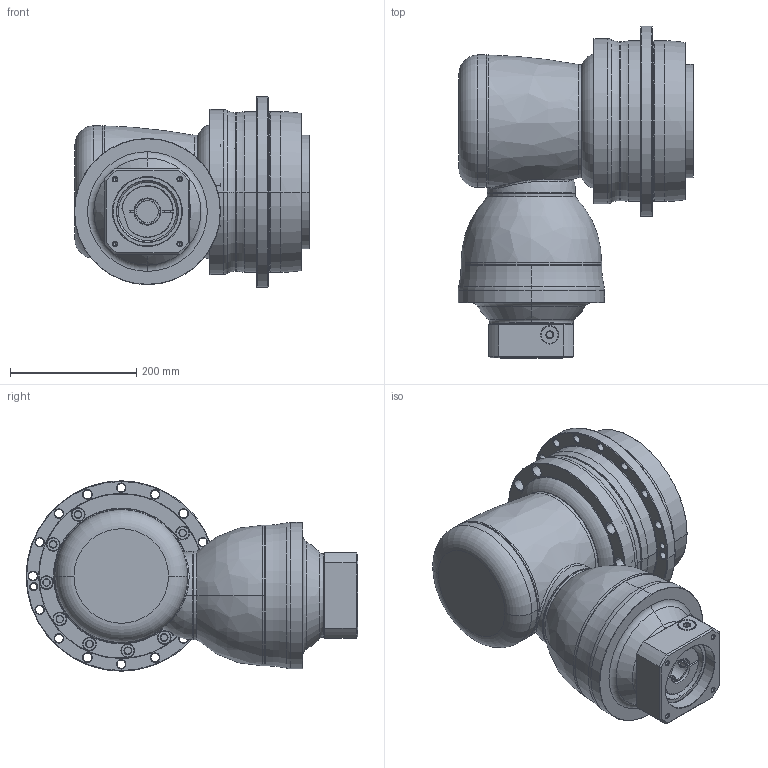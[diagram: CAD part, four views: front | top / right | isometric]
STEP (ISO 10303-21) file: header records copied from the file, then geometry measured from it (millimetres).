
FILE_DESCRIPTION((''),'2;1');
FILE_NAME('AHKB255_3ST_35-P0409800101_ASM','2016-12-01T',('d01943'),(''),'PRO/ENGINEER BY PARAMETRIC TECHNOLOGY CORPORATION, 2008410','PRO/ENGINEER BY PARAMETRIC TECHNOLOGY CORPORATION, 2008410','');
FILE_SCHEMA(('CONFIG_CONTROL_DESIGN'));
Length unit declared in the file: millimetre
Products named in the file (12): P1008600002; P1802700001; P0278700003; P0359700003; P1315600001; P1007600001; P1317600301; P0409800101; P0503800012; P0912503001; 21711422019; AHKB255_3ST_35-P0409800101_ASM
Assembly tree (11 placements, depth 2):
  AHKB255_3ST_35-P0409800101_ASM
    P1008600002
    P1802700001
    P0278700003
    P0359700003
    P1315600001
    P1007600001
    P1317600301
    P0409800101
    P0503800012
    P0912503001
    21711422019
Bounding box: 373.5 x 526.5 x 302 mm (x, y, z)
Volume: 16730727.9 mm3; surface area: 1350757.8 mm2
Topology: 12 solids, 12 shells, 1005 faces, 2291 edges, 1322 vertices
Faces by surface type: cylinder 368, cone 338, plane 136, torus 124, bspline 37, sphere 2
Entity records: 34685 total; most frequent: CARTESIAN_POINT 11543, DIRECTION 5328, ORIENTED_EDGE 4426, AXIS2_PLACEMENT_3D 2275, EDGE_CURVE 2213, VERTEX_POINT 1322, CIRCLE 1284, EDGE_LOOP 1185
